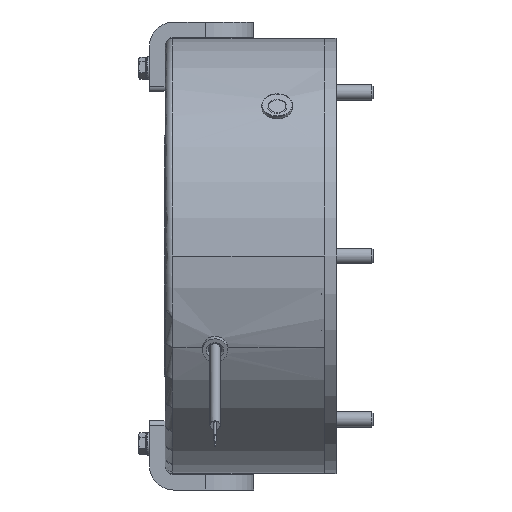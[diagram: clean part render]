
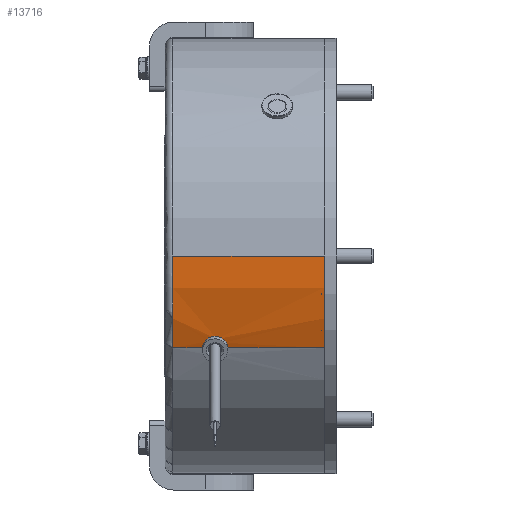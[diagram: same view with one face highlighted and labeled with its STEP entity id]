
A CAD part, front view. The second image highlights one B-rep face of the part: STEP entity #13716.
In plain terms, the highlighted cylindrical face has radius 113 mm (diameter 226 mm), a partial arc.
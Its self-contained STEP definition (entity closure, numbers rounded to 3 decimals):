
#306=B_SPLINE_CURVE_WITH_KNOTS('',3,(#21853,#21854,#21855,#21856,#21857,
#21858,#21859,#21860,#21861,#21862,#21863,#21864,#21865,#21866,#21867,#21868,
#21869,#21870,#21871),.UNSPECIFIED.,.F.,.F.,(4,2,2,2,3,2,2,2,4),(2.348,
2.544,2.74,2.936,3.131,3.327,
3.523,3.718,3.914),.UNSPECIFIED.);
#642=CYLINDRICAL_SURFACE('',#15072,113.);
#1569=CIRCLE('',#15070,113.);
#1571=CIRCLE('',#15073,113.);
#2373=FACE_OUTER_BOUND('',#3176,.T.);
#3176=EDGE_LOOP('',(#10578,#10579,#10580,#10581,#10582,#10583,#10584,#10585));
#3809=LINE('',#21417,#4466);
#3810=LINE('',#21425,#4467);
#3811=LINE('',#21431,#4468);
#3812=LINE('',#21433,#4469);
#3813=LINE('',#21453,#4470);
#4466=VECTOR('',#16938,113.);
#4467=VECTOR('',#16945,113.);
#4468=VECTOR('',#16950,113.);
#4469=VECTOR('',#16951,10.);
#4470=VECTOR('',#16952,10.);
#5373=VERTEX_POINT('',#21415);
#5374=VERTEX_POINT('',#21416);
#5377=VERTEX_POINT('',#21422);
#5378=VERTEX_POINT('',#21424);
#5380=VERTEX_POINT('',#21428);
#5381=VERTEX_POINT('',#21430);
#5382=VERTEX_POINT('',#21432);
#5383=VERTEX_POINT('',#21434);
#6926=EDGE_CURVE('',#5373,#5374,#3809,.T.);
#6930=EDGE_CURVE('',#5378,#5377,#3810,.T.);
#6933=EDGE_CURVE('',#5381,#5380,#3811,.T.);
#6934=EDGE_CURVE('',#5382,#5381,#3812,.T.);
#6936=EDGE_CURVE('',#5374,#5383,#3813,.T.);
#7052=EDGE_CURVE('',#5383,#5382,#306,.T.);
#7507=EDGE_CURVE('',#5373,#5377,#1569,.T.);
#7509=EDGE_CURVE('',#5378,#5380,#1571,.T.);
#10578=ORIENTED_EDGE('',*,*,#6926,.T.);
#10579=ORIENTED_EDGE('',*,*,#6936,.T.);
#10580=ORIENTED_EDGE('',*,*,#7052,.T.);
#10581=ORIENTED_EDGE('',*,*,#6934,.T.);
#10582=ORIENTED_EDGE('',*,*,#6933,.T.);
#10583=ORIENTED_EDGE('',*,*,#7509,.F.);
#10584=ORIENTED_EDGE('',*,*,#6930,.T.);
#10585=ORIENTED_EDGE('',*,*,#7507,.F.);
#13716=ADVANCED_FACE('',(#2373),#642,.T.);
#15070=AXIS2_PLACEMENT_3D('',#22990,#18164,#18165);
#15072=AXIS2_PLACEMENT_3D('',#22992,#18168,#18169);
#15073=AXIS2_PLACEMENT_3D('',#22993,#18170,#18171);
#16938=DIRECTION('',(1.,0.,0.));
#16945=DIRECTION('',(-1.,0.,0.));
#16950=DIRECTION('',(1.,0.,0.));
#16951=DIRECTION('',(1.,0.,0.));
#16952=DIRECTION('',(1.,0.,0.));
#18164=DIRECTION('center_axis',(-1.,0.,0.));
#18165=DIRECTION('ref_axis',(0.,-1.,0.));
#18168=DIRECTION('center_axis',(1.,0.,0.));
#18169=DIRECTION('ref_axis',(0.,0.906,0.423));
#18170=DIRECTION('center_axis',(1.,0.,0.));
#18171=DIRECTION('ref_axis',(0.,1.,0.));
#21415=CARTESIAN_POINT('',(-78.8,-102.413,-47.756));
#21416=CARTESIAN_POINT('',(-63.4,-102.413,-47.756));
#21417=CARTESIAN_POINT('',(-41.4,-102.413,-47.756));
#21422=CARTESIAN_POINT('',(-78.8,-113.,0.));
#21424=CARTESIAN_POINT('',(0.,-113.,0.));
#21425=CARTESIAN_POINT('',(-41.4,-113.,0.));
#21428=CARTESIAN_POINT('',(0.,-102.413,-47.756));
#21430=CARTESIAN_POINT('',(-50.2,-102.413,-47.756));
#21431=CARTESIAN_POINT('',(-41.4,-102.413,-47.756));
#21432=CARTESIAN_POINT('',(-51.6,-102.413,-47.756));
#21433=CARTESIAN_POINT('',(-41.4,-102.413,-47.756));
#21434=CARTESIAN_POINT('',(-62.,-102.413,-47.756));
#21453=CARTESIAN_POINT('',(-41.4,-102.413,-47.756));
#21853=CARTESIAN_POINT('Ctrl Pts',(-62.,-102.413,-47.756));
#21854=CARTESIAN_POINT('Ctrl Pts',(-62.,-102.689,-47.164));
#21855=CARTESIAN_POINT('Ctrl Pts',(-61.869,-102.977,
-46.531));
#21856=CARTESIAN_POINT('Ctrl Pts',(-61.337,-103.498,
-45.361));
#21857=CARTESIAN_POINT('Ctrl Pts',(-60.936,-103.73,
-44.825));
#21858=CARTESIAN_POINT('Ctrl Pts',(-60.011,-104.092,
-43.979));
#21859=CARTESIAN_POINT('Ctrl Pts',(-59.427,-104.246,
-43.611));
#21860=CARTESIAN_POINT('Ctrl Pts',(-58.147,-104.449,
-43.123));
#21861=CARTESIAN_POINT('Ctrl Pts',(-57.452,-104.498,
-43.003));
#21862=CARTESIAN_POINT('Ctrl Pts',(-56.8,-104.498,-43.003));
#21863=CARTESIAN_POINT('Ctrl Pts',(-56.148,-104.498,
-43.003));
#21864=CARTESIAN_POINT('Ctrl Pts',(-55.452,-104.448,
-43.123));
#21865=CARTESIAN_POINT('Ctrl Pts',(-54.172,-104.245,
-43.612));
#21866=CARTESIAN_POINT('Ctrl Pts',(-53.587,-104.091,
-43.98));
#21867=CARTESIAN_POINT('Ctrl Pts',(-52.663,-103.729,
-44.827));
#21868=CARTESIAN_POINT('Ctrl Pts',(-52.263,-103.497,
-45.362));
#21869=CARTESIAN_POINT('Ctrl Pts',(-51.731,-102.977,
-46.531));
#21870=CARTESIAN_POINT('Ctrl Pts',(-51.6,-102.689,
-47.165));
#21871=CARTESIAN_POINT('Ctrl Pts',(-51.6,-102.413,
-47.756));
#22990=CARTESIAN_POINT('Origin',(-78.8,0.,0.));
#22992=CARTESIAN_POINT('Origin',(-41.4,0.,0.));
#22993=CARTESIAN_POINT('Origin',(0.,0.,0.));
